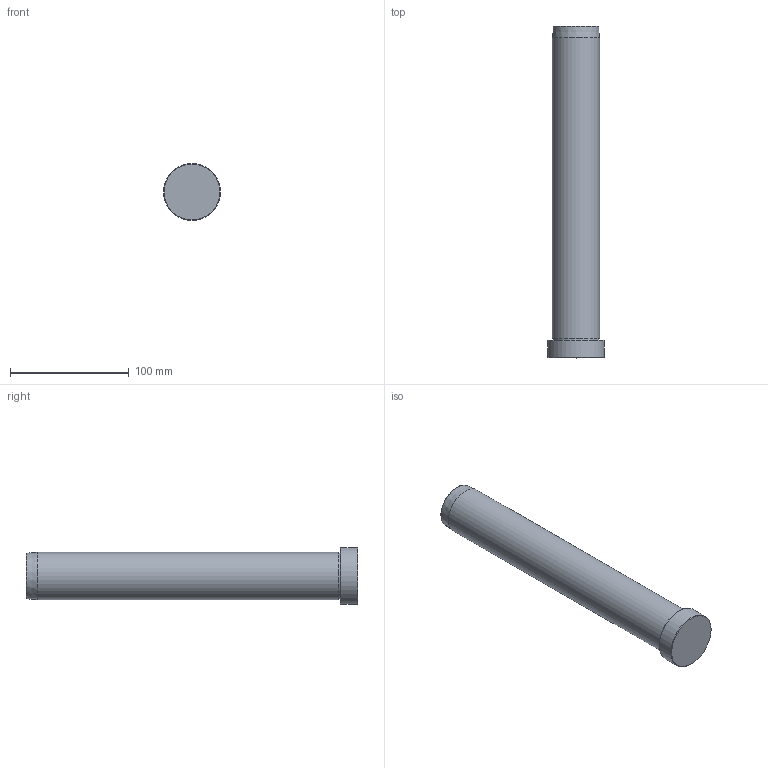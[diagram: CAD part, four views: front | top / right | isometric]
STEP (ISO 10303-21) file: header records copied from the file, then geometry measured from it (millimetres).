
FILE_DESCRIPTION( ( 'STEP AP203' ), '1' );
FILE_NAME( 'D:/Cuma/24 03 2009/D01D/D01D_40X280.step', '2002-12-31T22:19:17', ( ' ' ), ( ' ' ), 'XStep 1.0', ' ', ' ' );
FILE_SCHEMA( ( 'CONFIG_CONTROL_DESIGN' ) );
Length unit declared in the file: metre
Products named in the file (1): 1
Bounding box: 48 x 280 x 48 mm (x, y, z)
Volume: 359536.6 mm3; surface area: 39002.4 mm2
Topology: 1 solids, 1 shells, 11 faces, 17 edges, 10 vertices
Faces by surface type: plane 4, cone 3, cylinder 3, torus 1
Full cylindrical faces by diameter (mm): 39.5 x1, 40 x1, 48 x1
Entity records: 259 total; most frequent: DIRECTION 44, CARTESIAN_POINT 32, AXIS2_PLACEMENT_3D 22, EDGE_LOOP 20, ORIENTED_EDGE 20, FACE_OUTER_BOUND 15, ADVANCED_FACE 11, EDGE_CURVE 10
